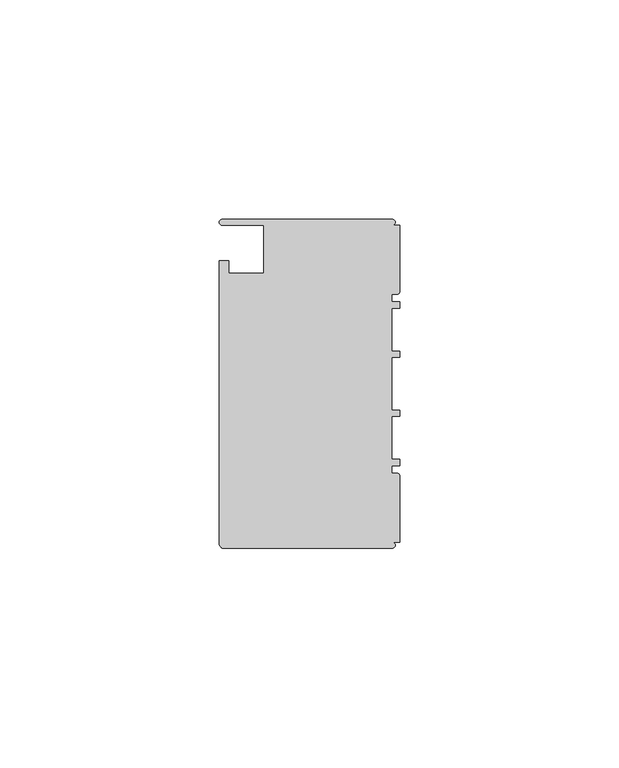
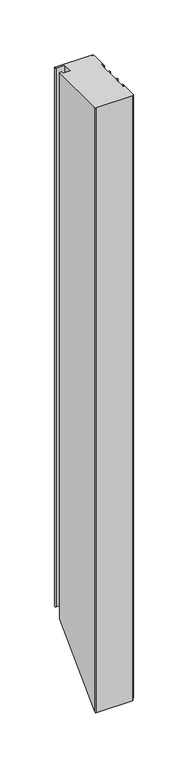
"""IFC4 building model written with IfcOpenShell, lengths in millimetres: member geometry, Прямоугольный импост : 1-AMG-1-Профиль 40Х75 Верх П."""

from ifc_helpers import new_model, si_unit, frame, origin, place, context, project, spatial, circle_curve, ellipse_curve, source, transform, mapped, element, save
from ifc_brep_helpers import plane_surface, cylinder_surface, advanced_brep


def member_a0690aec(model_context):
    return source(origin(), model_context, "Body", "AdvancedBrep", [
        advanced_brep(
        [(-1.7, 37.5, 0.0), (-40.4, 37.5, 0.0), (-40.4, 36.1, 0.0), (-31.0, 36.1, 0.0), (-31.0, 25.25, 0.0), (-39.0, 25.25, 0.0), (-39.0, 28.1, 0.0), (-41.1, 28.1, 0.0), (-41.1, -36.1, 0.0), (-40.4, -37.5, 0.0), (-1.7, -37.5, 0.0), (-1.7, -36.1, 0.0), (0.0, -36.1, 0.0), (0.0, -20.95, 0.0), (-0.5, -20.45, 0.0), (-1.8, -20.45, 0.0), (-1.8, -18.65, 0.0), (0.0, -18.65, 0.0), (0.0, -17.25, 0.0), (-1.8, -17.25, 0.0), (-1.8, -7.4, 0.0), (0.0, -7.4, 0.0), (0.0, -6.0, 0.0), (-1.8, -6.0, 0.0), (-1.8, 6.0, 0.0), (0.0, 6.0, 0.0), (0.0, 7.4, 0.0), (-1.8, 7.4, 0.0), (-1.8, 17.25, 0.0), (0.0, 17.25, 0.0), (0.0, 18.65, 0.0), (-1.8, 18.65, 0.0), (-1.8, 20.45, 0.0), (-0.5, 20.45, 0.0), (0.0, 20.95, 0.0), (0.0, 36.1, 0.0), (-1.7, 36.1, 0.0), (-1.7, 37.5, -601.3849139), (-40.4, 37.5, -601.3849139), (-40.4, 36.1, -602.7849139), (-31.0, 36.1, -602.7849139), (-31.0, 25.25, -613.6349139), (-39.0, 25.25, -613.6349139), (-39.0, 28.1, -610.7849139), (-41.1, 28.1, -610.7849139), (-41.1, -36.1, -674.9849139), (-40.4, -37.5, -676.3849139), (-1.7, -37.5, -676.3849139), (-1.7, -36.1, -674.9849139), (0.0, -36.1, -674.9849139), (0.0, -20.95, -659.8349139), (-0.5, -20.45, -659.3349139), (-1.8, -20.45, -659.3349139), (-1.8, -18.65, -657.5349139), (0.0, -18.65, -657.5349139), (0.0, -17.25, -656.1349139), (-1.8, -17.25, -656.1349139), (-1.8, -7.4, -646.2849139), (0.0, -7.4, -646.2849139), (0.0, -6.0, -644.8849139), (-1.8, -6.0, -644.8849139), (-1.8, 6.0, -632.8849139), (0.0, 6.0, -632.8849139), (0.0, 7.4, -631.4849139), (-1.8, 7.4, -631.4849139), (-1.8, 17.25, -621.6349139), (0.0, 17.25, -621.6349139), (0.0, 18.65, -620.2349139), (-1.8, 18.65, -620.2349139), (-1.8, 20.45, -618.4349139), (-0.5, 20.45, -618.4349139), (0.0, 20.95, -617.9349139), (0.0, 36.1, -602.7849139), (-1.7, 36.1, -602.7849139)],
        [
            (0, 1),
            (1, 2, circle_curve(frame((-40.4, 36.8, 0.0), z_axis=(0.0, 0.0, 1.0), x_axis=(-1.0, 0.0, 0.0)), 0.7)),
            (2, 3),
            (3, 4),
            (4, 5),
            (5, 6),
            (6, 7),
            (7, 8),
            (8, 9, circle_curve(frame((-39.7541527, -36.3020763, 0.0), z_axis=(0.0, 0.0, 1.0), x_axis=(1.0, 0.0, 0.0)), 1.3609334)),
            (9, 10),
            (10, 11, circle_curve(frame((-1.7, -36.8, 0.0), z_axis=(0.0, 0.0, 1.0), x_axis=(-1.0, 0.0, 0.0)), 0.7)),
            (11, 12),
            (12, 13),
            (13, 14, circle_curve(frame((-0.5, -20.95, 0.0), z_axis=(0.0, 0.0, 1.0), x_axis=(0.0, 1.0, 0.0)), 0.5)),
            (14, 15),
            (15, 16),
            (16, 17),
            (17, 18),
            (18, 19),
            (19, 20),
            (20, 21),
            (21, 22),
            (22, 23),
            (23, 24),
            (24, 25),
            (25, 26),
            (26, 27),
            (27, 28),
            (28, 29),
            (29, 30),
            (30, 31),
            (31, 32),
            (32, 33),
            (33, 34, circle_curve(frame((-0.5, 20.95, 0.0), z_axis=(0.0, 0.0, 1.0), x_axis=(1.0, 0.0, 0.0)), 0.5)),
            (34, 35),
            (35, 36),
            (36, 0, circle_curve(frame((-1.7, 36.8, 0.0), z_axis=(0.0, 0.0, 1.0), x_axis=(-1.0, 0.0, 0.0)), 0.7)),
            (0, 37),
            (37, 38),
            (38, 1),
            (38, 39, ellipse_curve(frame((-40.4, 36.8, -602.0849139), z_axis=(0.0, -0.7071067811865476, 0.7071067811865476), x_axis=(0.0, 0.7071067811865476, 0.7071067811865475)), 0.9899495, 0.7)),
            (39, 2),
            (39, 40),
            (40, 3),
            (40, 41),
            (41, 4),
            (41, 42),
            (42, 5),
            (42, 43),
            (43, 6),
            (43, 44),
            (44, 7),
            (44, 45),
            (45, 8),
            (45, 46, ellipse_curve(frame((-39.7541527, -36.3020763, -675.1869902), z_axis=(0.0, -0.7071067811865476, 0.7071067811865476), x_axis=(0.0, 0.7071067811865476, 0.7071067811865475)), 1.9246505, 1.3609334)),
            (46, 9),
            (46, 47),
            (47, 10),
            (47, 48, ellipse_curve(frame((-1.7, -36.8, -675.6849139), z_axis=(0.0, -0.7071067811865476, 0.7071067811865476), x_axis=(0.0, 0.7071067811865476, 0.7071067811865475)), 0.9899495, 0.7)),
            (48, 11),
            (48, 49),
            (49, 12),
            (49, 50),
            (50, 13),
            (50, 51, ellipse_curve(frame((-0.5, -20.95, -659.8349139), z_axis=(0.0, -0.7071067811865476, 0.7071067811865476), x_axis=(0.0, 0.7071067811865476, 0.7071067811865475)), 0.7071068, 0.5)),
            (51, 14),
            (51, 52),
            (52, 15),
            (52, 53),
            (53, 16),
            (53, 54),
            (54, 17),
            (54, 55),
            (55, 18),
            (55, 56),
            (56, 19),
            (56, 57),
            (57, 20),
            (57, 58),
            (58, 21),
            (58, 59),
            (59, 22),
            (59, 60),
            (60, 23),
            (60, 61),
            (61, 24),
            (61, 62),
            (62, 25),
            (62, 63),
            (63, 26),
            (63, 64),
            (64, 27),
            (64, 65),
            (65, 28),
            (65, 66),
            (66, 29),
            (66, 67),
            (67, 30),
            (67, 68),
            (68, 31),
            (68, 69),
            (69, 32),
            (69, 70),
            (70, 33),
            (70, 71, ellipse_curve(frame((-0.5, 20.95, -617.9349139), z_axis=(0.0, -0.7071067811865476, 0.7071067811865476), x_axis=(0.0, 0.7071067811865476, 0.7071067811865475)), 0.7071068, 0.5)),
            (71, 34),
            (71, 72),
            (72, 35),
            (72, 73),
            (73, 36),
            (73, 37, ellipse_curve(frame((-1.7, 36.8, -602.0849139), z_axis=(0.0, -0.7071067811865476, 0.7071067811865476), x_axis=(0.0, 0.7071067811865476, 0.7071067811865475)), 0.9899495, 0.7)),
        ],
        [
            plane_surface(frame((0.0, -55.1674723, 0.0), z_axis=(0.0, 0.0, 1.0), x_axis=(-1.0, 0.0, 0.0))),
            plane_surface(frame((-1.7, 37.5, 0.0), z_axis=(0.0, 1.0, 0.0), x_axis=(0.0, 0.0, -1.0))),
            cylinder_surface(frame((-40.4, 36.8, 0.0), z_axis=(0.0, 0.0, 1.0), x_axis=(-1.0, 0.0, 0.0)), 0.7),
            plane_surface(frame((-40.4, 36.1, 0.0), z_axis=(0.0, -1.0, 0.0), x_axis=(0.0, 0.0, -1.0))),
            plane_surface(frame((-31.0, 36.1, 0.0), z_axis=(-1.0, 0.0, 0.0), x_axis=(0.0, 0.0, -1.0))),
            plane_surface(frame((-31.0, 25.25, 0.0), z_axis=(0.0, 1.0, 0.0), x_axis=(0.0, 0.0, -1.0))),
            plane_surface(frame((-39.0, 25.25, 0.0), z_axis=(1.0, 0.0, 0.0), x_axis=(0.0, 0.0, -1.0))),
            plane_surface(frame((-39.0, 28.1, 0.0), z_axis=(0.0, 1.0, 0.0), x_axis=(0.0, 0.0, -1.0))),
            plane_surface(frame((-41.1, 28.1, 0.0), z_axis=(-1.0, 0.0, 0.0), x_axis=(0.0, 0.0, -1.0))),
            cylinder_surface(frame((-39.7541527, -36.3020763, 0.0), z_axis=(0.0, 0.0, 1.0), x_axis=(1.0, 0.0, 0.0)), 1.3609334),
            plane_surface(frame((-40.4, -37.5, 0.0), z_axis=(0.0, -1.0, 0.0), x_axis=(0.0, 0.0, -1.0))),
            cylinder_surface(frame((-1.7, -36.8, 0.0), z_axis=(0.0, 0.0, 1.0), x_axis=(-1.0, 0.0, 0.0)), 0.7),
            plane_surface(frame((-1.7, -36.1, 0.0), z_axis=(0.0, -1.0, 0.0), x_axis=(0.0, 0.0, -1.0))),
            plane_surface(frame((0.0, -36.1, 0.0), z_axis=(1.0, 0.0, 0.0), x_axis=(0.0, 0.0, -1.0))),
            cylinder_surface(frame((-0.5, -20.95, 0.0), z_axis=(0.0, 0.0, 1.0), x_axis=(0.0, 1.0, 0.0)), 0.5),
            plane_surface(frame((-0.5, -20.45, 0.0), z_axis=(0.0, 1.0, 0.0), x_axis=(0.0, 0.0, -1.0))),
            plane_surface(frame((-1.8, -20.45, 0.0), z_axis=(1.0, 0.0, 0.0), x_axis=(0.0, 0.0, -1.0))),
            plane_surface(frame((-1.8, -18.65, 0.0), z_axis=(0.0, -1.0, 0.0), x_axis=(0.0, 0.0, -1.0))),
            plane_surface(frame((0.0, -18.65, 0.0), z_axis=(1.0, 0.0, 0.0), x_axis=(0.0, 0.0, -1.0))),
            plane_surface(frame((0.0, -17.25, 0.0), z_axis=(0.0, 1.0, 0.0), x_axis=(0.0, 0.0, -1.0))),
            plane_surface(frame((-1.8, -17.25, 0.0), z_axis=(1.0, 0.0, 0.0), x_axis=(0.0, 0.0, -1.0))),
            plane_surface(frame((-1.8, -7.4, 0.0), z_axis=(0.0, -1.0, 0.0), x_axis=(0.0, 0.0, -1.0))),
            plane_surface(frame((0.0, -7.4, 0.0), z_axis=(1.0, 0.0, 0.0), x_axis=(0.0, 0.0, -1.0))),
            plane_surface(frame((0.0, -6.0, 0.0), z_axis=(0.0, 1.0, 0.0), x_axis=(0.0, 0.0, -1.0))),
            plane_surface(frame((-1.8, -6.0, 0.0), z_axis=(1.0, 0.0, 0.0), x_axis=(0.0, 0.0, -1.0))),
            plane_surface(frame((-1.8, 6.0, 0.0), z_axis=(0.0, -1.0, 0.0), x_axis=(0.0, 0.0, -1.0))),
            plane_surface(frame((0.0, 6.0, 0.0), z_axis=(1.0, 0.0, 0.0), x_axis=(0.0, 0.0, -1.0))),
            plane_surface(frame((0.0, 7.4, 0.0), z_axis=(0.0, 1.0, 0.0), x_axis=(0.0, 0.0, -1.0))),
            plane_surface(frame((-1.8, 7.4, 0.0), z_axis=(1.0, 0.0, 0.0), x_axis=(0.0, 0.0, -1.0))),
            plane_surface(frame((-1.8, 17.25, 0.0), z_axis=(0.0, -1.0, 0.0), x_axis=(0.0, 0.0, -1.0))),
            plane_surface(frame((0.0, 17.25, 0.0), z_axis=(1.0, 0.0, 0.0), x_axis=(0.0, 0.0, -1.0))),
            plane_surface(frame((0.0, 18.65, 0.0), z_axis=(0.0, 1.0, 0.0), x_axis=(0.0, 0.0, -1.0))),
            plane_surface(frame((-1.8, 18.65, 0.0), z_axis=(1.0, 0.0, 0.0), x_axis=(0.0, 0.0, -1.0))),
            plane_surface(frame((-1.8, 20.45, 0.0), z_axis=(0.0, -1.0, 0.0), x_axis=(0.0, 0.0, -1.0))),
            cylinder_surface(frame((-0.5, 20.95, 0.0), z_axis=(0.0, 0.0, 1.0), x_axis=(1.0, 0.0, 0.0)), 0.5),
            plane_surface(frame((0.0, 20.95, 0.0), z_axis=(1.0, 0.0, 0.0), x_axis=(0.0, 0.0, -1.0))),
            plane_surface(frame((0.0, 36.1, 0.0), z_axis=(0.0, 1.0, 0.0), x_axis=(0.0, 0.0, -1.0))),
            cylinder_surface(frame((-1.7, 36.8, 0.0), z_axis=(0.0, 0.0, 1.0), x_axis=(-1.0, 0.0, 0.0)), 0.7),
            plane_surface(frame((-304.8, 0.0, -638.8849139), z_axis=(0.0, 0.7071067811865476, -0.7071067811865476), x_axis=(0.0, 0.7071067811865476, 0.7071067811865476))),
        ],
        [
            (0, [[1, 2, 3, 4, 5, 6, 7, 8, 9, 10, 11, 12, 13, 14, 15, 16, 17, 18, 19, 20, 21, 22, 23, 24, 25, 26, 27, 28, 29, 30, 31, 32, 33, 34, 35, 36, 37]]),
            (1, [[-1, 38, 39, 40]]),
            (2, [[-2, -40, 41, 42]]),
            (3, [[-3, -42, 43, 44]]),
            (4, [[-4, -44, 45, 46]]),
            (5, [[-5, -46, 47, 48]]),
            (6, [[-6, -48, 49, 50]]),
            (7, [[-7, -50, 51, 52]]),
            (8, [[-8, -52, 53, 54]]),
            (9, [[-9, -54, 55, 56]]),
            (10, [[-10, -56, 57, 58]]),
            (11, [[-11, -58, 59, 60]]),
            (12, [[-12, -60, 61, 62]]),
            (13, [[-13, -62, 63, 64]]),
            (14, [[-14, -64, 65, 66]]),
            (15, [[-15, -66, 67, 68]]),
            (16, [[-16, -68, 69, 70]]),
            (17, [[-17, -70, 71, 72]]),
            (18, [[-18, -72, 73, 74]]),
            (19, [[-19, -74, 75, 76]]),
            (20, [[-20, -76, 77, 78]]),
            (21, [[-21, -78, 79, 80]]),
            (22, [[-22, -80, 81, 82]]),
            (23, [[-23, -82, 83, 84]]),
            (24, [[-24, -84, 85, 86]]),
            (25, [[-25, -86, 87, 88]]),
            (26, [[-26, -88, 89, 90]]),
            (27, [[-27, -90, 91, 92]]),
            (28, [[-28, -92, 93, 94]]),
            (29, [[-29, -94, 95, 96]]),
            (30, [[-30, -96, 97, 98]]),
            (31, [[-31, -98, 99, 100]]),
            (32, [[-32, -100, 101, 102]]),
            (33, [[-33, -102, 103, 104]]),
            (34, [[-34, -104, 105, 106]]),
            (35, [[-35, -106, 107, 108]]),
            (36, [[-36, -108, 109, 110]]),
            (37, [[-37, -110, 111, -38]]),
            (38, [[-111, -109, -107, -105, -103, -101, -99, -97, -95, -93, -91, -89, -87, -85, -83, -81, -79, -77, -75, -73, -71, -69, -67, -65, -63, -61, -59, -57, -55, -53, -51, -49, -47, -45, -43, -41, -39]]),
        ],
    ),
    ])


if __name__ == "__main__":
    model = new_model("IFC4")
    model_context = context("Model", 3, world=origin())
    ifc_project = project(units=[si_unit("LENGTHUNIT", "METRE", prefix="MILLI")], contexts=[model_context])
    site = spatial("IfcSite", under=ifc_project)
    building = spatial("IfcBuilding", under=site)
    placement = place(None, origin())
    member_shape = member_a0690aec(model_context)
    element("IfcMember", 1, ObjectType="Прямоугольный импост : 1-AMG-1-Профиль 40Х75 Верх П", at=placement, inside=building, context=model_context, shape_type="MappedRepresentation", body=[
        mapped(member_shape, transform((0.0, 0.0, 0.0), x_axis=(1.0, 0.0, 0.0), y_axis=(0.0, 1.0, 0.0), z_axis=(0.0, 0.0, 1.0))),
    ])
    save(model, "model.ifc")
